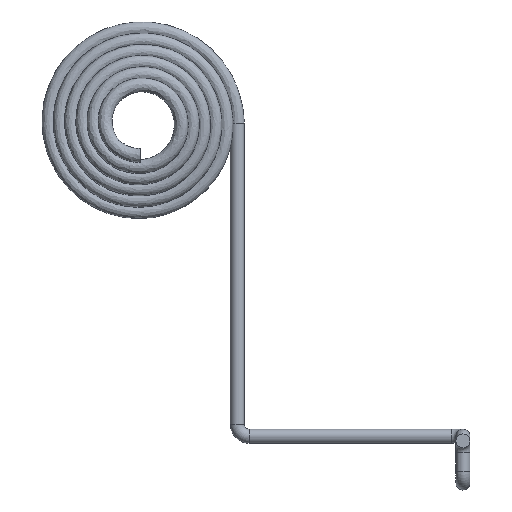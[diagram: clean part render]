
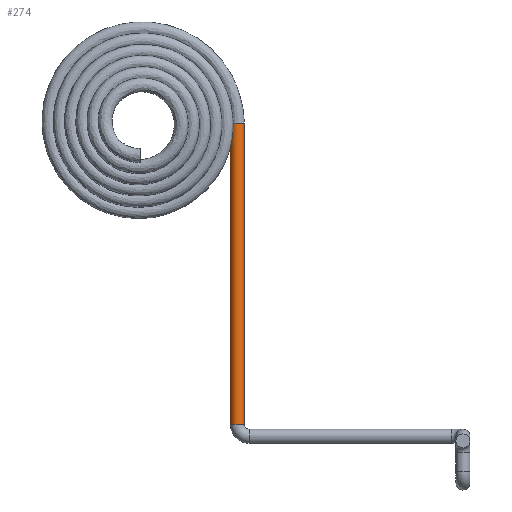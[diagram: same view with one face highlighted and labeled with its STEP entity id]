
A CAD part, front view. The second image highlights one B-rep face of the part: STEP entity #274.
In plain terms, the highlighted cylindrical face has radius 0.3 mm (diameter 0.6 mm), a full revolution.
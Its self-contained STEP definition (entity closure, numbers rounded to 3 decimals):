
#38=FACE_OUTER_BOUND('',#54,.T.);
#54=EDGE_LOOP('',(#240,#241,#242,#243,#244,#245,#246));
#63=LINE('',#518,#70);
#70=VECTOR('',#433,0.3);
#98=CIRCLE('',#331,0.3);
#99=CIRCLE('',#332,0.3);
#100=CIRCLE('',#334,0.3);
#101=CIRCLE('',#335,0.3);
#102=CIRCLE('',#336,0.3);
#125=VERTEX_POINT('',#511);
#126=VERTEX_POINT('',#513);
#127=VERTEX_POINT('',#517);
#128=VERTEX_POINT('',#519);
#129=VERTEX_POINT('',#521);
#164=EDGE_CURVE('',#125,#126,#98,.T.);
#165=EDGE_CURVE('',#126,#125,#99,.T.);
#166=EDGE_CURVE('',#126,#127,#63,.T.);
#167=EDGE_CURVE('',#127,#128,#100,.T.);
#168=EDGE_CURVE('',#128,#129,#101,.T.);
#169=EDGE_CURVE('',#129,#127,#102,.T.);
#240=ORIENTED_EDGE('',*,*,#165,.F.);
#241=ORIENTED_EDGE('',*,*,#166,.T.);
#242=ORIENTED_EDGE('',*,*,#167,.T.);
#243=ORIENTED_EDGE('',*,*,#168,.T.);
#244=ORIENTED_EDGE('',*,*,#169,.T.);
#245=ORIENTED_EDGE('',*,*,#166,.F.);
#246=ORIENTED_EDGE('',*,*,#164,.F.);
#260=CYLINDRICAL_SURFACE('',#333,0.3);
#274=ADVANCED_FACE('',(#38),#260,.T.);
#331=AXIS2_PLACEMENT_3D('',#514,#427,#428);
#332=AXIS2_PLACEMENT_3D('',#515,#429,#430);
#333=AXIS2_PLACEMENT_3D('',#516,#431,#432);
#334=AXIS2_PLACEMENT_3D('',#520,#434,#435);
#335=AXIS2_PLACEMENT_3D('',#522,#436,#437);
#336=AXIS2_PLACEMENT_3D('',#523,#438,#439);
#427=DIRECTION('center_axis',(0.,0.,-1.));
#428=DIRECTION('ref_axis',(1.,0.,0.));
#429=DIRECTION('center_axis',(0.,0.,-1.));
#430=DIRECTION('ref_axis',(1.,0.,0.));
#431=DIRECTION('center_axis',(0.,0.,-1.));
#432=DIRECTION('ref_axis',(1.,0.,0.));
#433=DIRECTION('',(0.,0.,1.));
#434=DIRECTION('center_axis',(0.,0.,-1.));
#435=DIRECTION('ref_axis',(-1.,0.,0.));
#436=DIRECTION('center_axis',(0.,0.,-1.));
#437=DIRECTION('ref_axis',(-1.,0.,0.));
#438=DIRECTION('center_axis',(0.,0.,-1.));
#439=DIRECTION('ref_axis',(-1.,0.,0.));
#511=CARTESIAN_POINT('',(4.45,0.,-12.9));
#513=CARTESIAN_POINT('',(3.85,0.,-12.9));
#514=CARTESIAN_POINT('Origin',(4.15,0.,-12.9));
#515=CARTESIAN_POINT('Origin',(4.15,0.,-12.9));
#516=CARTESIAN_POINT('Origin',(4.15,0.,0.));
#517=CARTESIAN_POINT('',(3.85,0.,0.));
#518=CARTESIAN_POINT('',(3.85,0.,0.));
#519=CARTESIAN_POINT('',(3.868,0.103,0.));
#520=CARTESIAN_POINT('Origin',(4.15,0.,0.));
#521=CARTESIAN_POINT('',(4.45,0.,0.));
#522=CARTESIAN_POINT('Origin',(4.15,0.,0.));
#523=CARTESIAN_POINT('Origin',(4.15,0.,0.));
